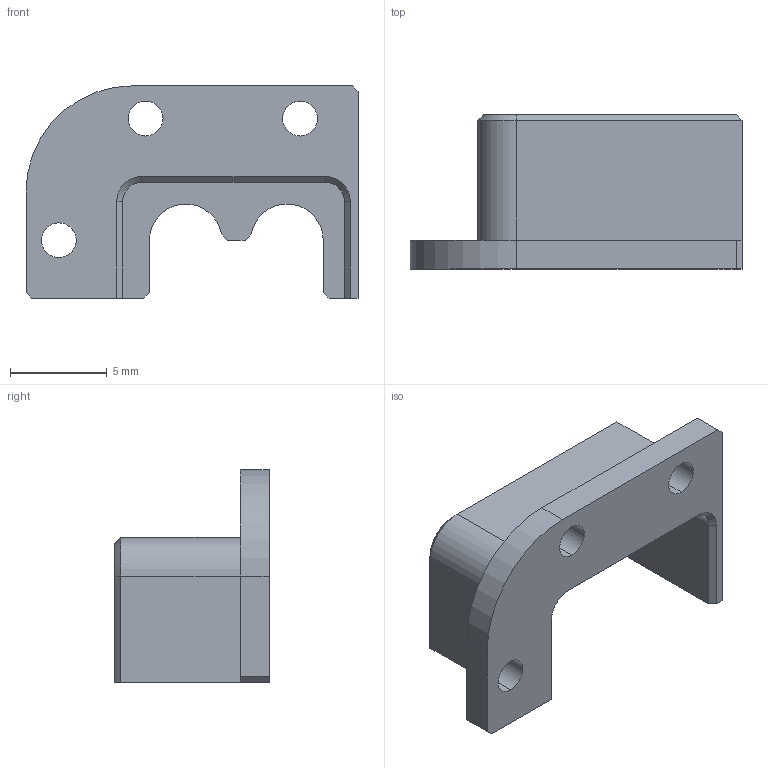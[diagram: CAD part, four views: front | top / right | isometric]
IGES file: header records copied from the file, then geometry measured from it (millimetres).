
Start section: SolidWorks IGES file using analytic representation for surfaces
Bounding box: 17.2 x 8 x 11 mm (x, y, z)
Volume: 403.5 mm3; surface area: 725.1 mm2
Topology: 1 solids, 1 shells, 52 faces, 135 edges, 85 vertices
Faces by surface type: plane 31, revolution 21
